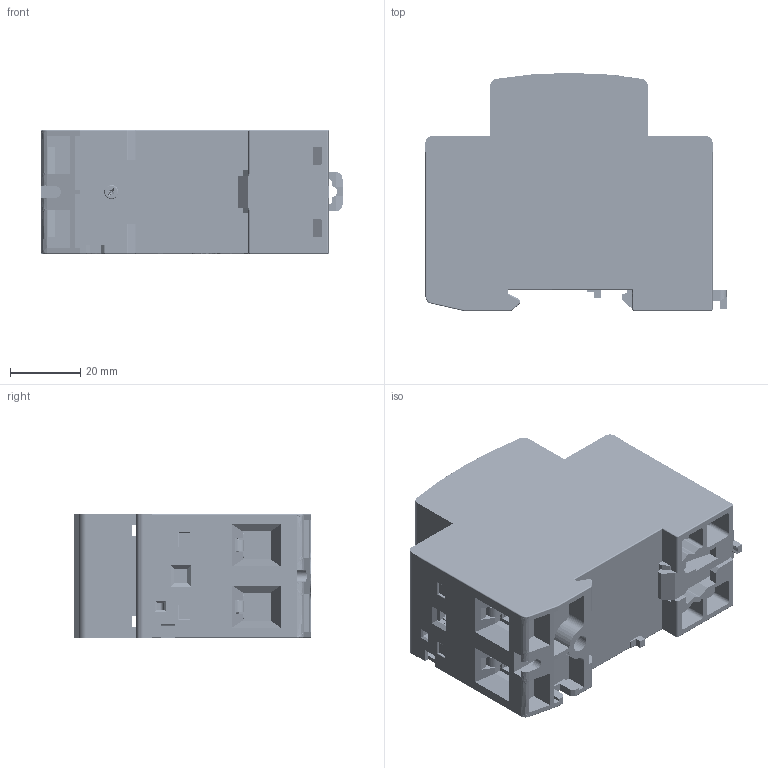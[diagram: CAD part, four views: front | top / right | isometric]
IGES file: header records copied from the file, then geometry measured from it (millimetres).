
Start section: SolidWorks IGES file using analytic representation for surfaces
Bounding box: 86 x 68 x 35.4 mm (x, y, z)
Surface area: 67596.3 mm2 (no closed solid volume)
Topology: 0 solids, 0 shells, 3510 faces, 35033 edges, 35029 vertices
Faces by surface type: bspline 2436, revolution 1074
